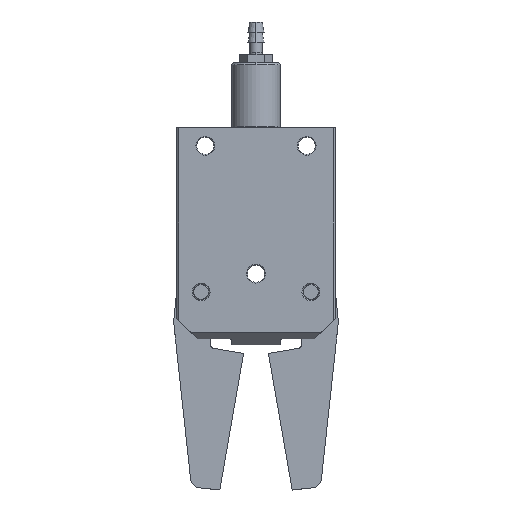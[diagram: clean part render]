
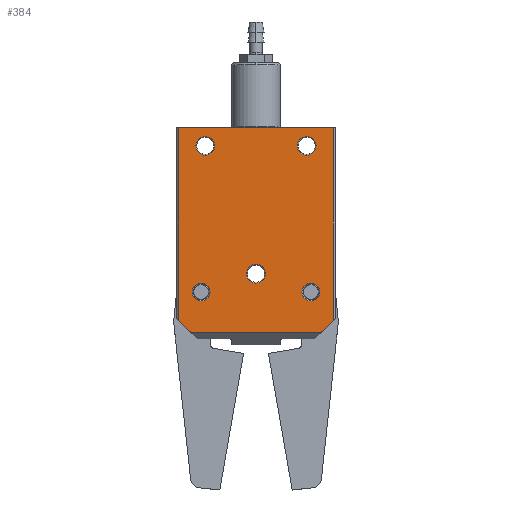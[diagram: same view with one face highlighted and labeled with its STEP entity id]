
A CAD part, top view. The second image highlights one B-rep face of the part: STEP entity #384.
In plain terms, the highlighted planar face has unit normal (0, 0, 1).
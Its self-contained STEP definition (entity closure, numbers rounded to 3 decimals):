
#26 = EDGE_CURVE ( 'NONE', #5272, #5664, #2668, .T. ) ;
#159 = LINE ( 'NONE', #4322, #195 ) ;
#179 = CIRCLE ( 'NONE', #4769, 2.2 ) ;
#195 = VECTOR ( 'NONE', #4243, 1000. ) ;
#237 = DIRECTION ( 'NONE',  ( 0., 0., -1. ) ) ;
#243 = DIRECTION ( 'NONE',  ( 1., 0., 0. ) ) ;
#244 = DIRECTION ( 'NONE',  ( 1., 0., 0. ) ) ;
#255 = CARTESIAN_POINT ( 'NONE',  ( -21.018, -23.072, 76.9 ) ) ;
#342 = EDGE_CURVE ( 'NONE', #5637, #499, #3162, .T. ) ;
#380 = EDGE_CURVE ( 'NONE', #5664, #5637, #5749, .T. ) ;
#384 = ADVANCED_FACE ( 'NONE', ( #5529, #5251, #5860, #5064, #5659, #4972 ), #3985, .T. ) ;
#499 = VERTEX_POINT ( 'NONE', #4302 ) ;
#506 = CIRCLE ( 'NONE', #3887, 2.3 ) ;
#546 = DIRECTION ( 'NONE',  ( 0., -1., 0. ) ) ;
#552 = CARTESIAN_POINT ( 'NONE',  ( -21.018, -18.672, 76.9 ) ) ;
#565 = EDGE_LOOP ( 'NONE', ( #3652, #948 ) ) ;
#582 = EDGE_CURVE ( 'NONE', #3373, #1112, #2282, .T. ) ;
#797 = VERTEX_POINT ( 'NONE', #5911 ) ;
#913 = CIRCLE ( 'NONE', #5513, 2.3 ) ;
#948 = ORIENTED_EDGE ( 'NONE', *, *, #4911, .T. ) ;
#1005 = CARTESIAN_POINT ( 'NONE',  ( -17.718, 15.128, 76.9 ) ) ;
#1088 = CIRCLE ( 'NONE', #3950, 2.2 ) ;
#1112 = VERTEX_POINT ( 'NONE', #3885 ) ;
#1189 = AXIS2_PLACEMENT_3D ( 'NONE', #3934, #4774, #3903 ) ;
#1293 = CIRCLE ( 'NONE', #3841, 2.3 ) ;
#1358 = DIRECTION ( 'NONE',  ( 1., 0., 0. ) ) ;
#1395 = EDGE_CURVE ( 'NONE', #2010, #1577, #506, .T. ) ;
#1424 = ORIENTED_EDGE ( 'NONE', *, *, #3104, .T. ) ;
#1452 = DIRECTION ( 'NONE',  ( 1., 0., 0. ) ) ;
#1472 = DIRECTION ( 'NONE',  ( 0., 0., -1. ) ) ;
#1493 = CARTESIAN_POINT ( 'NONE',  ( 4.982, 15.128, 76.9 ) ) ;
#1501 = DIRECTION ( 'NONE',  ( 0., 0., -1. ) ) ;
#1577 = VERTEX_POINT ( 'NONE', #4600 ) ;
#1579 = DIRECTION ( 'NONE',  ( 0.707, 0.707, 0. ) ) ;
#1630 = CARTESIAN_POINT ( 'NONE',  ( 8.482, -30.872, 76.9 ) ) ;
#1705 = ORIENTED_EDGE ( 'NONE', *, *, #1919, .T. ) ;
#1777 = DIRECTION ( 'NONE',  ( 1., 0., 0. ) ) ;
#1859 = VERTEX_POINT ( 'NONE', #2464 ) ;
#1914 = ORIENTED_EDGE ( 'NONE', *, *, #4734, .T. ) ;
#1919 = EDGE_CURVE ( 'NONE', #5337, #5272, #5006, .T. ) ;
#1979 = DIRECTION ( 'NONE',  ( 0., 0., -1. ) ) ;
#2010 = VERTEX_POINT ( 'NONE', #1005 ) ;
#2057 = EDGE_CURVE ( 'NONE', #1577, #2010, #3036, .T. ) ;
#2210 = CARTESIAN_POINT ( 'NONE',  ( -7.518, -16.372, 76.9 ) ) ;
#2246 = CARTESIAN_POINT ( 'NONE',  ( 7.282, 15.128, 76.9 ) ) ;
#2282 = CIRCLE ( 'NONE', #4090, 2.3 ) ;
#2330 = DIRECTION ( 'NONE',  ( 0., 0., -1. ) ) ;
#2419 = ORIENTED_EDGE ( 'NONE', *, *, #342, .T. ) ;
#2433 = ORIENTED_EDGE ( 'NONE', *, *, #5465, .T. ) ;
#2464 = CARTESIAN_POINT ( 'NONE',  ( -26.518, -27.872, 76.9 ) ) ;
#2497 = EDGE_CURVE ( 'NONE', #5581, #797, #913, .T. ) ;
#2501 = CIRCLE ( 'NONE', #2827, 2.2 ) ;
#2508 = CARTESIAN_POINT ( 'NONE',  ( -26.518, -30.872, 76.9 ) ) ;
#2596 = CARTESIAN_POINT ( 'NONE',  ( 11.482, -27.872, 76.9 ) ) ;
#2628 = LINE ( 'NONE', #2783, #2633 ) ;
#2633 = VECTOR ( 'NONE', #5384, 1000. ) ;
#2668 = LINE ( 'NONE', #1630, #4867 ) ;
#2688 = CARTESIAN_POINT ( 'NONE',  ( 5.982, -18.672, 76.9 ) ) ;
#2745 = DIRECTION ( 'NONE',  ( 0., -1., 0. ) ) ;
#2783 = CARTESIAN_POINT ( 'NONE',  ( -26.518, -27.872, 76.9 ) ) ;
#2827 = AXIS2_PLACEMENT_3D ( 'NONE', #3110, #237, #3560 ) ;
#2897 = CARTESIAN_POINT ( 'NONE',  ( -20.018, 15.128, 76.9 ) ) ;
#2941 = ORIENTED_EDGE ( 'NONE', *, *, #3714, .T. ) ;
#3031 = VECTOR ( 'NONE', #3621, 1000. ) ;
#3032 = ORIENTED_EDGE ( 'NONE', *, *, #2497, .T. ) ;
#3036 = CIRCLE ( 'NONE', #5866, 2.3 ) ;
#3064 = ORIENTED_EDGE ( 'NONE', *, *, #380, .T. ) ;
#3070 = DIRECTION ( 'NONE',  ( 0., 0., -1. ) ) ;
#3104 = EDGE_CURVE ( 'NONE', #3827, #4913, #3749, .T. ) ;
#3110 = CARTESIAN_POINT ( 'NONE',  ( 5.982, -20.872, 76.9 ) ) ;
#3126 = EDGE_LOOP ( 'NONE', ( #2433, #1914 ) ) ;
#3132 = EDGE_LOOP ( 'NONE', ( #1424, #2941 ) ) ;
#3162 = LINE ( 'NONE', #5089, #3031 ) ;
#3172 = DIRECTION ( 'NONE',  ( 0., -1., 0. ) ) ;
#3205 = CARTESIAN_POINT ( 'NONE',  ( -7.518, -16.372, 76.9 ) ) ;
#3294 = EDGE_CURVE ( 'NONE', #797, #5581, #3452, .T. ) ;
#3373 = VERTEX_POINT ( 'NONE', #2246 ) ;
#3452 = CIRCLE ( 'NONE', #5056, 2.3 ) ;
#3470 = ORIENTED_EDGE ( 'NONE', *, *, #5545, .T. ) ;
#3560 = DIRECTION ( 'NONE',  ( 0., -1., 0. ) ) ;
#3621 = DIRECTION ( 'NONE',  ( -1., 0., 0. ) ) ;
#3652 = ORIENTED_EDGE ( 'NONE', *, *, #582, .T. ) ;
#3714 = EDGE_CURVE ( 'NONE', #4913, #3827, #179, .T. ) ;
#3749 = CIRCLE ( 'NONE', #5244, 2.2 ) ;
#3827 = VERTEX_POINT ( 'NONE', #255 ) ;
#3841 = AXIS2_PLACEMENT_3D ( 'NONE', #4662, #1979, #244 ) ;
#3885 = CARTESIAN_POINT ( 'NONE',  ( 2.682, 15.128, 76.9 ) ) ;
#3887 = AXIS2_PLACEMENT_3D ( 'NONE', #2897, #5252, #1777 ) ;
#3903 = DIRECTION ( 'NONE',  ( 1., 0., 0. ) ) ;
#3929 = CARTESIAN_POINT ( 'NONE',  ( 11.482, 19.628, 76.9 ) ) ;
#3934 = CARTESIAN_POINT ( 'NONE',  ( -26.518, -30.872, 76.9 ) ) ;
#3950 = AXIS2_PLACEMENT_3D ( 'NONE', #3994, #4086, #5355 ) ;
#3957 = EDGE_LOOP ( 'NONE', ( #4207, #3032 ) ) ;
#3985 = PLANE ( 'NONE',  #1189 ) ;
#3994 = CARTESIAN_POINT ( 'NONE',  ( 5.982, -20.872, 76.9 ) ) ;
#3995 = CARTESIAN_POINT ( 'NONE',  ( 11.482, -30.872, 76.9 ) ) ;
#4057 = ORIENTED_EDGE ( 'NONE', *, *, #26, .T. ) ;
#4086 = DIRECTION ( 'NONE',  ( 0., 0., -1. ) ) ;
#4090 = AXIS2_PLACEMENT_3D ( 'NONE', #1493, #1472, #1452 ) ;
#4126 = EDGE_LOOP ( 'NONE', ( #3064, #2419, #5424, #3470, #1705, #4057 ) ) ;
#4203 = CARTESIAN_POINT ( 'NONE',  ( -21.018, -20.872, 76.9 ) ) ;
#4207 = ORIENTED_EDGE ( 'NONE', *, *, #3294, .T. ) ;
#4241 = EDGE_CURVE ( 'NONE', #499, #1859, #159, .T. ) ;
#4243 = DIRECTION ( 'NONE',  ( 0., -1., 0. ) ) ;
#4302 = CARTESIAN_POINT ( 'NONE',  ( -26.518, 19.628, 76.9 ) ) ;
#4322 = CARTESIAN_POINT ( 'NONE',  ( -26.518, -30.872, 76.9 ) ) ;
#4376 = DIRECTION ( 'NONE',  ( 0., 0., -1. ) ) ;
#4529 = CARTESIAN_POINT ( 'NONE',  ( 5.982, -23.072, 76.9 ) ) ;
#4600 = CARTESIAN_POINT ( 'NONE',  ( -22.318, 15.128, 76.9 ) ) ;
#4637 = CARTESIAN_POINT ( 'NONE',  ( -20.018, 15.128, 76.9 ) ) ;
#4652 = VERTEX_POINT ( 'NONE', #2688 ) ;
#4662 = CARTESIAN_POINT ( 'NONE',  ( 4.982, 15.128, 76.9 ) ) ;
#4734 = EDGE_CURVE ( 'NONE', #4652, #5124, #1088, .T. ) ;
#4744 = DIRECTION ( 'NONE',  ( 0., 1., 0. ) ) ;
#4769 = AXIS2_PLACEMENT_3D ( 'NONE', #4203, #4376, #546 ) ;
#4774 = DIRECTION ( 'NONE',  ( 0., 0., 1. ) ) ;
#4867 = VECTOR ( 'NONE', #1579, 1000. ) ;
#4901 = ORIENTED_EDGE ( 'NONE', *, *, #2057, .T. ) ;
#4911 = EDGE_CURVE ( 'NONE', #1112, #3373, #1293, .T. ) ;
#4913 = VERTEX_POINT ( 'NONE', #552 ) ;
#4972 = FACE_BOUND ( 'NONE', #4980, .T. ) ;
#4973 = CARTESIAN_POINT ( 'NONE',  ( -21.018, -20.872, 76.9 ) ) ;
#4980 = EDGE_LOOP ( 'NONE', ( #5726, #4901 ) ) ;
#5006 = LINE ( 'NONE', #2508, #5243 ) ;
#5056 = AXIS2_PLACEMENT_3D ( 'NONE', #3205, #5830, #2745 ) ;
#5064 = FACE_BOUND ( 'NONE', #3126, .T. ) ;
#5089 = CARTESIAN_POINT ( 'NONE',  ( -27.018, 19.628, 76.9 ) ) ;
#5106 = CARTESIAN_POINT ( 'NONE',  ( -23.518, -30.872, 76.9 ) ) ;
#5124 = VERTEX_POINT ( 'NONE', #4529 ) ;
#5243 = VECTOR ( 'NONE', #243, 1000. ) ;
#5244 = AXIS2_PLACEMENT_3D ( 'NONE', #4973, #2330, #5411 ) ;
#5251 = FACE_BOUND ( 'NONE', #3132, .T. ) ;
#5252 = DIRECTION ( 'NONE',  ( 0., 0., -1. ) ) ;
#5272 = VERTEX_POINT ( 'NONE', #5334 ) ;
#5334 = CARTESIAN_POINT ( 'NONE',  ( 8.482, -30.872, 76.9 ) ) ;
#5337 = VERTEX_POINT ( 'NONE', #5106 ) ;
#5345 = CARTESIAN_POINT ( 'NONE',  ( -7.518, -14.072, 76.9 ) ) ;
#5355 = DIRECTION ( 'NONE',  ( 0., -1., 0. ) ) ;
#5384 = DIRECTION ( 'NONE',  ( 0.707, -0.707, 0. ) ) ;
#5411 = DIRECTION ( 'NONE',  ( 0., -1., 0. ) ) ;
#5424 = ORIENTED_EDGE ( 'NONE', *, *, #4241, .T. ) ;
#5465 = EDGE_CURVE ( 'NONE', #5124, #4652, #2501, .T. ) ;
#5513 = AXIS2_PLACEMENT_3D ( 'NONE', #2210, #3070, #3172 ) ;
#5529 = FACE_OUTER_BOUND ( 'NONE', #4126, .T. ) ;
#5545 = EDGE_CURVE ( 'NONE', #1859, #5337, #2628, .T. ) ;
#5581 = VERTEX_POINT ( 'NONE', #5345 ) ;
#5637 = VERTEX_POINT ( 'NONE', #3929 ) ;
#5659 = FACE_BOUND ( 'NONE', #565, .T. ) ;
#5664 = VERTEX_POINT ( 'NONE', #2596 ) ;
#5726 = ORIENTED_EDGE ( 'NONE', *, *, #1395, .T. ) ;
#5749 = LINE ( 'NONE', #3995, #5835 ) ;
#5830 = DIRECTION ( 'NONE',  ( 0., 0., -1. ) ) ;
#5835 = VECTOR ( 'NONE', #4744, 1000. ) ;
#5860 = FACE_BOUND ( 'NONE', #3957, .T. ) ;
#5866 = AXIS2_PLACEMENT_3D ( 'NONE', #4637, #1501, #1358 ) ;
#5911 = CARTESIAN_POINT ( 'NONE',  ( -7.518, -18.672, 76.9 ) ) ;
